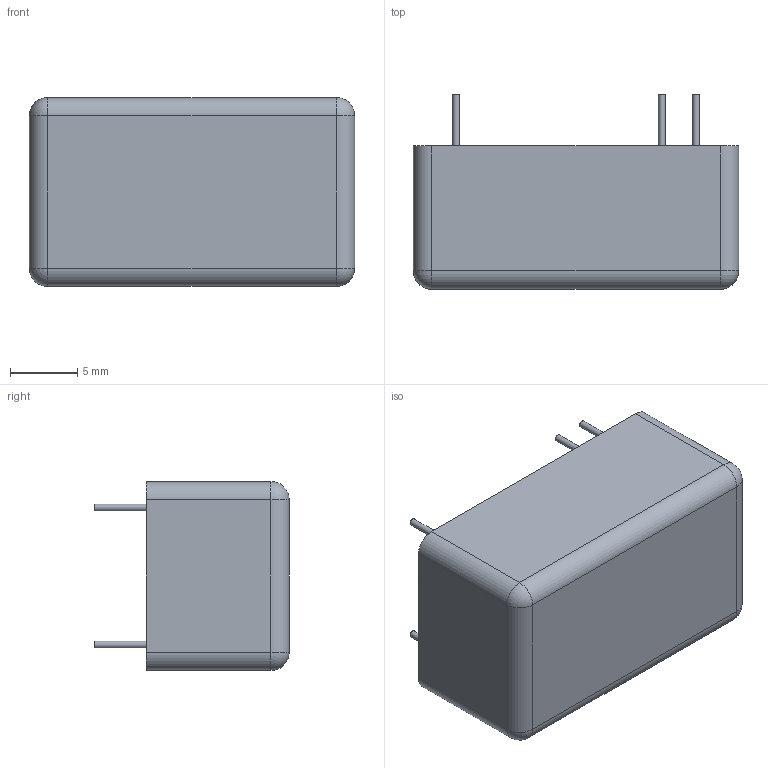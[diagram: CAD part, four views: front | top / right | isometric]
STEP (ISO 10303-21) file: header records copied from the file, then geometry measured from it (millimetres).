
FILE_DESCRIPTION (( 'STEP AP203' ), '1' );
FILE_NAME ('TEL12.STEP', '2020-04-07T03:53:19', ( '' ), ( '' ), 'SwSTEP 2.0', 'SolidWorks 2018', '' );
FILE_SCHEMA (( 'CONFIG_CONTROL_DESIGN' ));
Length unit declared in the file: millimetre
Products named in the file (1): TEL12
Bounding box: 24.1 x 14.4 x 14 mm (x, y, z)
Volume: 3535.4 mm3; surface area: 1441 mm2
Topology: 1 solids, 1 shells, 28 faces, 55 edges, 30 vertices
Faces by surface type: cylinder 13, plane 11, sphere 4
Full cylindrical faces by diameter (mm): 0.5 x5
Entity records: 737 total; most frequent: DIRECTION 130, CARTESIAN_POINT 105, ORIENTED_EDGE 92, AXIS2_PLACEMENT_3D 55, EDGE_CURVE 46, EDGE_LOOP 38, FACE_OUTER_BOUND 33, VERTEX_POINT 30
